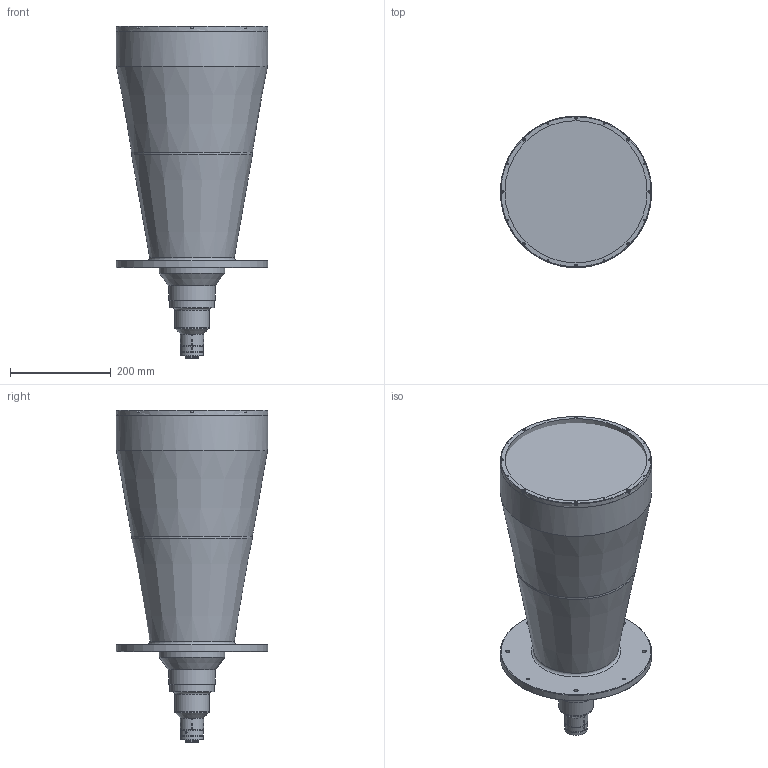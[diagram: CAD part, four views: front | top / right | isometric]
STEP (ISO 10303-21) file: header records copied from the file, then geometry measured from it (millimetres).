
FILE_DESCRIPTION (( 'STEP AP203' ), '1' );
FILE_NAME ('3d_mtl-24011c-005-a002.STEP', '2017-06-15T02:29:33', ( '' ), ( '' ), 'SwSTEP 2.0', 'SolidWorks 2014', '' );
FILE_SCHEMA (( 'CONFIG_CONTROL_DESIGN' ));
Length unit declared in the file: millimetre
Products named in the file (1): 3d_mtl-24011c-005-a002
Bounding box: 300 x 300 x 658.55 mm (x, y, z)
Volume: 22594791.9 mm3; surface area: 635120.5 mm2
Topology: 1 solids, 17 shells, 837 faces, 1917 edges, 1174 vertices
Faces by surface type: plane 503, cone 177, cylinder 104, torus 41, sphere 8, bspline 4
Full cylindrical faces by diameter (mm): 1.5 x8, 1.6 x4, 3 x8, 3.5 x8, 3.6 x11, 3.8 x3, 4.4 x3, 5 x4, 5.5 x8, 7 x4, 8 x8, 16.5 x1, 20 x1, 21.5 x1, 22.5 x1, 24 x1, 24.5 x1, 24.7 x1, 25 x1, 25.4 x1, 27 x1, 30 x2, 44 x1, 45 x2, 46 x1, 68 x2, 84.5 x1, 88 x1, 93 x1, 130 x1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
Entity records: 22721 total; most frequent: CARTESIAN_POINT 5095, DIRECTION 3794, ORIENTED_EDGE 3216, EDGE_CURVE 1608, AXIS2_PLACEMENT_3D 1540, EDGE_LOOP 1157, VERTEX_POINT 1077, FACE_OUTER_BOUND 982
